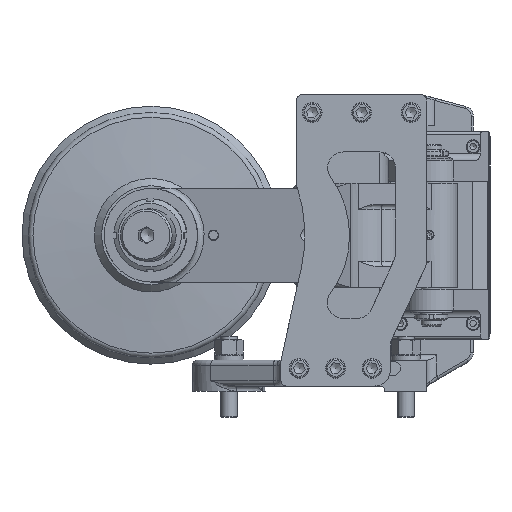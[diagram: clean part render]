
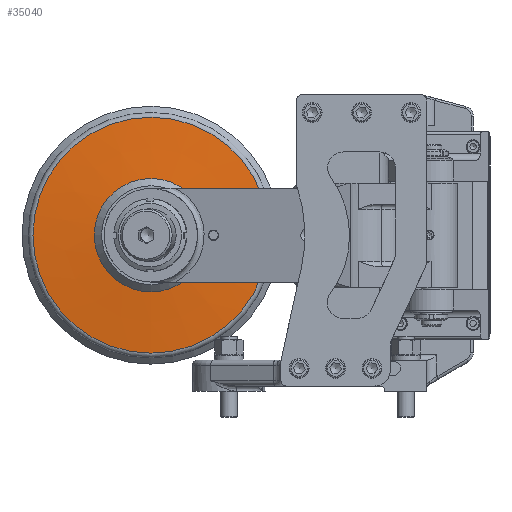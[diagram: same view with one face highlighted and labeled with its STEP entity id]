
A CAD part, left-side view. The second image highlights one B-rep face of the part: STEP entity #35040.
In plain terms, the highlighted conical face has half-angle 85 degrees and reference radius 83.968 mm.
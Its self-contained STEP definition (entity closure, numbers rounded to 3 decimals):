
#2301=CONICAL_SURFACE('',#38658,83.968,1.484);
#3983=FACE_OUTER_BOUND('',#6046,.T.);
#6046=EDGE_LOOP('',(#30167,#30168,#30169,#30170,#30171,#30172,#30173));
#8407=LINE('',#67788,#10713);
#10713=VECTOR('',#48080,83.968);
#12599=CIRCLE('',#38655,113.436);
#12600=CIRCLE('',#38656,113.436);
#12601=CIRCLE('',#38657,113.436);
#12602=CIRCLE('',#38659,54.5);
#12603=CIRCLE('',#38660,54.5);
#15831=VERTEX_POINT('',#67779);
#15832=VERTEX_POINT('',#67781);
#15833=VERTEX_POINT('',#67783);
#15834=VERTEX_POINT('',#67787);
#15835=VERTEX_POINT('',#67789);
#20712=EDGE_CURVE('',#15831,#15832,#12599,.T.);
#20713=EDGE_CURVE('',#15832,#15833,#12600,.T.);
#20714=EDGE_CURVE('',#15833,#15831,#12601,.T.);
#20715=EDGE_CURVE('',#15832,#15834,#8407,.T.);
#20716=EDGE_CURVE('',#15834,#15835,#12602,.T.);
#20717=EDGE_CURVE('',#15835,#15834,#12603,.T.);
#30167=ORIENTED_EDGE('',*,*,#20714,.F.);
#30168=ORIENTED_EDGE('',*,*,#20713,.F.);
#30169=ORIENTED_EDGE('',*,*,#20715,.T.);
#30170=ORIENTED_EDGE('',*,*,#20716,.T.);
#30171=ORIENTED_EDGE('',*,*,#20717,.T.);
#30172=ORIENTED_EDGE('',*,*,#20715,.F.);
#30173=ORIENTED_EDGE('',*,*,#20712,.F.);
#35040=ADVANCED_FACE('',(#3983),#2301,.T.);
#38655=AXIS2_PLACEMENT_3D('',#67782,#48072,#48073);
#38656=AXIS2_PLACEMENT_3D('',#67784,#48074,#48075);
#38657=AXIS2_PLACEMENT_3D('',#67785,#48076,#48077);
#38658=AXIS2_PLACEMENT_3D('',#67786,#48078,#48079);
#38659=AXIS2_PLACEMENT_3D('',#67790,#48081,#48082);
#38660=AXIS2_PLACEMENT_3D('',#67791,#48083,#48084);
#48072=DIRECTION('center_axis',(1.,0.,0.));
#48073=DIRECTION('ref_axis',(0.,0.,
1.));
#48074=DIRECTION('center_axis',(1.,0.,0.));
#48075=DIRECTION('ref_axis',(0.,0.,
1.));
#48076=DIRECTION('center_axis',(1.,0.,0.));
#48077=DIRECTION('ref_axis',(0.,0.,
1.));
#48078=DIRECTION('center_axis',(1.,0.,0.));
#48079=DIRECTION('ref_axis',(0.,0.,
1.));
#48080=DIRECTION('',(-0.087,0.,0.996));
#48081=DIRECTION('center_axis',(1.,0.,0.));
#48082=DIRECTION('ref_axis',(0.,0.,
1.));
#48083=DIRECTION('center_axis',(1.,0.,0.));
#48084=DIRECTION('ref_axis',(0.,0.,
1.));
#67779=CARTESIAN_POINT('',(109.256,196.564,150.));
#67781=CARTESIAN_POINT('',(109.256,310.,36.564));
#67782=CARTESIAN_POINT('Origin',(109.256,310.,150.));
#67783=CARTESIAN_POINT('',(109.256,310.,263.436));
#67784=CARTESIAN_POINT('Origin',(109.256,310.,150.));
#67785=CARTESIAN_POINT('Origin',(109.256,310.,150.));
#67786=CARTESIAN_POINT('Origin',(106.678,310.,150.));
#67787=CARTESIAN_POINT('',(104.1,310.,95.5));
#67788=CARTESIAN_POINT('',(106.678,310.,66.032));
#67789=CARTESIAN_POINT('',(104.1,310.,204.5));
#67790=CARTESIAN_POINT('Origin',(104.1,310.,150.));
#67791=CARTESIAN_POINT('Origin',(104.1,310.,150.));
